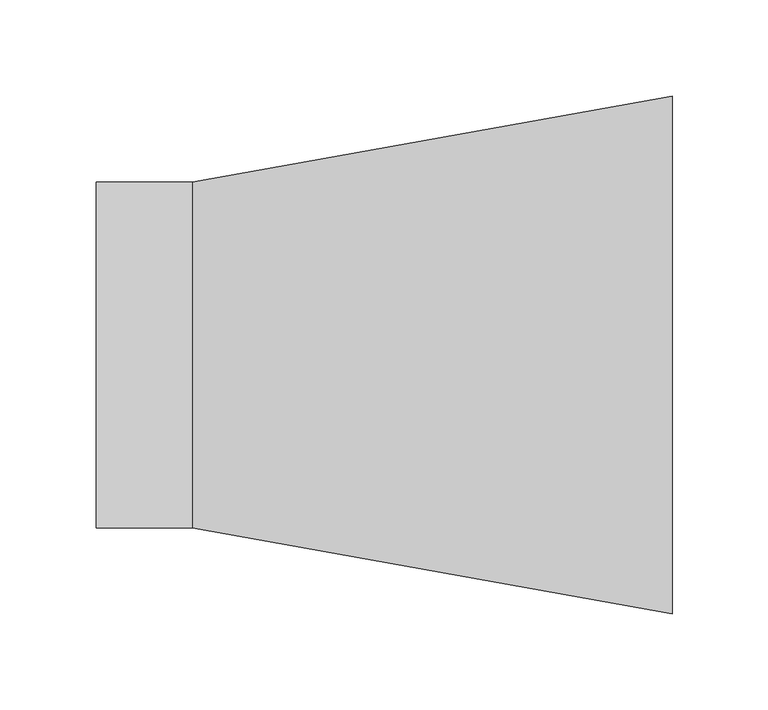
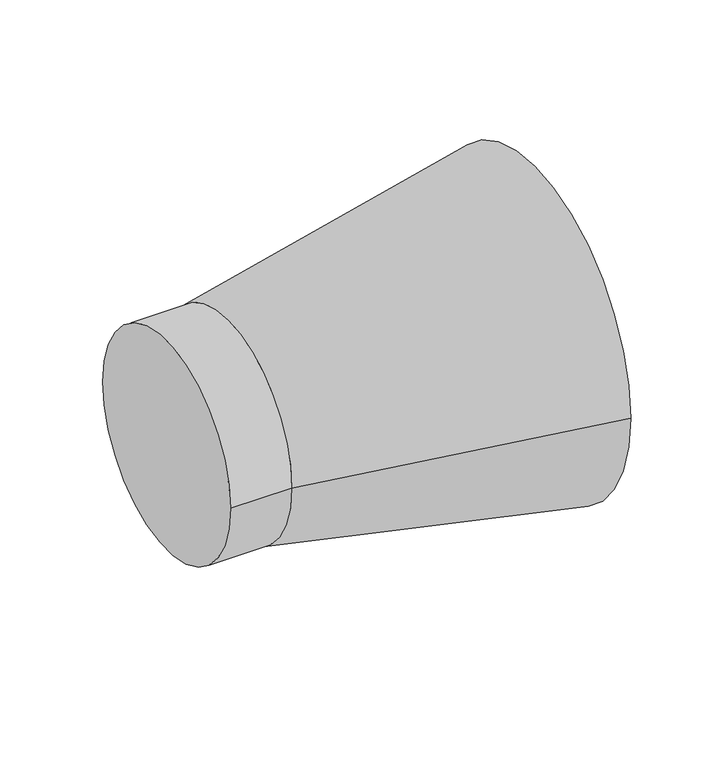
"""IFC4 building model written with IfcOpenShell, lengths in millimetres: air terminal geometry, Supply_Bell_Mouth_Grille : Supply_Bell_Mouth_Grille."""

from ifc_helpers import new_model, si_unit, point, frame, origin, origin_2d, place, context, project, spatial, polyline, circle_curve, trimmed, segment, composite_curve, outline, extrude, source, transform, mapped, element, save
from ifc_brep_helpers import plane_surface, revolved_surface, advanced_brep


def air_terminal_f10cd946(model_context):
    return source(origin(), model_context, "Body", "SolidModel", [
        extrude(outline(composite_curve([segment(trimmed(circle_curve(origin_2d(), 90.0), [point((-90.0, 0.0))], [point((90.0, 0.0))], False, "CARTESIAN"), True, "CONTINUOUS"), segment(trimmed(circle_curve(origin_2d(), 90.0), [point((90.0, 0.0))], [point((-90.0, 0.0))], False, "CARTESIAN"), True, "CONTINUOUS")], self_intersect=False)), frame((-50.0, 0.0, 0.0), z_axis=(1.0, 0.0, 0.0), x_axis=(0.0, 1.0, 0.0)), (0.0, 0.0, 1.0), 50.0),
        advanced_brep(
        [(250.0, -135.0, 0.0), (250.0, 135.0, 0.0), (0.0, -90.0, 0.0), (0.0, 90.0, 0.0)],
        [
            (0, 1, circle_curve(frame((250.0, 0.0, 0.0), z_axis=(1.0, 0.0, 0.0), x_axis=(0.0, -1.0, 0.0)), 135.0)),
            (1, 0, circle_curve(frame((250.0, 0.0, 0.0), z_axis=(1.0, 0.0, 0.0), x_axis=(0.0, 1.0, 0.0)), 135.0)),
            (2, 3, circle_curve(frame((0.0, 0.0, 0.0), z_axis=(-1.0, 0.0, 0.0), x_axis=(0.0, 1.0, 0.0)), 90.0)),
            (3, 2, circle_curve(frame((0.0, 0.0, 0.0), z_axis=(-1.0, 0.0, 0.0), x_axis=(0.0, -1.0, 0.0)), 90.0)),
            (3, 1),
            (0, 2),
        ],
        [
            plane_surface(frame((250.0, 0.0, 0.0), z_axis=(1.0, 0.0, 0.0), x_axis=(0.0, 0.0, -1.0))),
            plane_surface(frame((0.0, 0.0, 0.0), z_axis=(-1.0, 0.0, 0.0), x_axis=(0.0, 0.0, -1.0))),
            revolved_surface(polyline([(0.0, 90.0, 0.0), (250.0, 135.0, 0.0)]), (-500.0, 0.0, 0.0), (1.0, 0.0, 0.0)),
            revolved_surface(polyline([(0.0, -90.0, 0.0), (250.0, -135.0, 0.0)]), (-500.0, 0.0, 0.0), (1.0, 0.0, 0.0)),
        ],
        [
            (0, [[1, 2]]),
            (1, [[3, 4]]),
            (2, [[-4, 5, -1, 6]]),
            (3, [[-3, -6, -2, -5]]),
        ],
    ),
    ])


if __name__ == "__main__":
    model = new_model("IFC4")
    model_context = context("Model", 3, world=origin())
    ifc_project = project(units=[si_unit("LENGTHUNIT", "METRE", prefix="MILLI")], contexts=[model_context])
    site = spatial("IfcSite", under=ifc_project)
    building = spatial("IfcBuilding", under=site)
    placement = place(None, origin())
    air_terminal_shape = air_terminal_f10cd946(model_context)
    element("IfcAirTerminal", 1, ObjectType="Supply_Bell_Mouth_Grille : Supply_Bell_Mouth_Grille", at=placement, inside=building, context=model_context, shape_type="MappedRepresentation", body=[
        mapped(air_terminal_shape, transform((0.0, 0.0, 0.0), x_axis=(1.0, 0.0, 0.0), y_axis=(0.0, 1.0, 0.0), z_axis=(0.0, 0.0, 1.0))),
    ])
    save(model, "model.ifc")
